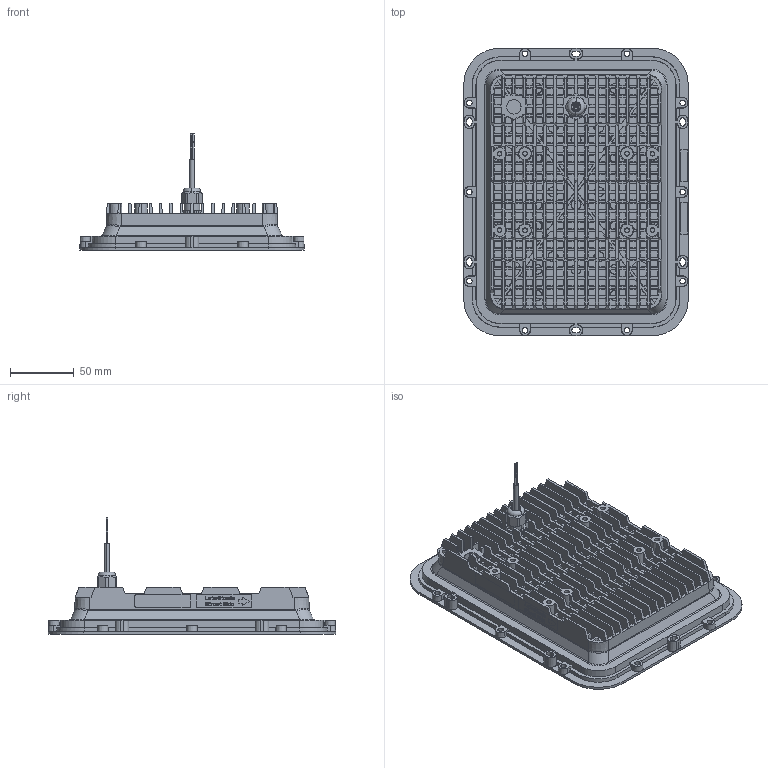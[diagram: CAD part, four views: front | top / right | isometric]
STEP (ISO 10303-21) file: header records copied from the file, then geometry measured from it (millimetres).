
FILE_DESCRIPTION(('Creo Elements/Direct Modeling STEP Export'),'2;1');
FILE_NAME('BRAVE_ZB19_singolo.stp','2022-08-02T15:53:25',(''),(''),'Creo Elements/Direct Modeling STEP processor for AP214 (Solid Model)','Creo Elements/Direct Modeling 20.0E 23-Apr-2019 (C) Parametric Technology GmbH','');
FILE_SCHEMA(('AUTOMOTIVE_DESIGN { 1 0 10303 214 1 1 1 1 }'));
Length unit declared in the file: millimetre
Products named in the file (9): viti-lente; viti_modulo; viti_rondelle; CS14055_STRADA_T2_a; dissipatore_PA; CAVO_STESO_2; etichetta_1; etichetta_2; engine_singolo
Assembly tree (8 placements, depth 3):
  engine_singolo
    etichetta_2
    etichetta_1
    CAVO_STESO_2
    dissipatore_PA
    CS14055_STRADA_T2_a
    viti_rondelle
      viti_modulo
      viti-lente
Bounding box: 176 x 225.6 x 91.17 mm (x, y, z)
Volume: 346991.4 mm3; surface area: 258667.1 mm2
Topology: 5 solids, 7 shells, 6170 faces, 17215 edges, 11102 vertices
Faces by surface type: plane 3600, torus 827, cylinder 651, cone 490, bspline 433, sphere 107, revolution 38, extrusion 24
Entity records: 215538 total; most frequent: CARTESIAN_POINT 71862, ORIENTED_EDGE 34190, DIRECTION 24314, EDGE_CURVE 17095, VERTEX_POINT 11102, VECTOR 9170, LINE 9146, AXIS2_PLACEMENT_3D 7553
